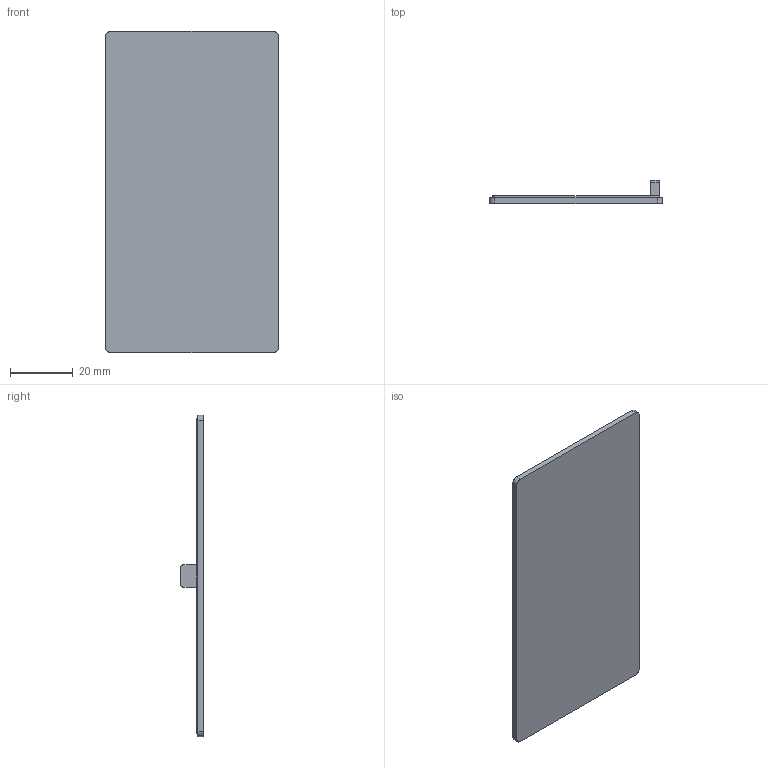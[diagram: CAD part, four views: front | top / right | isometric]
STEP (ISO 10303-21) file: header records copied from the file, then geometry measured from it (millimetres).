
FILE_DESCRIPTION (( 'STEP AP214' ), '1' );
FILE_NAME ('C-0204-N.STEP', '2010-07-16T16:51:25', ( 'steve began' ), ( 'polycase' ), 'SwSTEP 2.0', 'SolidWorks 2010', '' );
FILE_SCHEMA (( 'AUTOMOTIVE_DESIGN' ));
Length unit declared in the file: inch
Products named in the file (1): C-0204-N
Bounding box: 55.12 x 7.37 x 102.49 mm (x, y, z)
Volume: 12852.1 mm3; surface area: 12102.1 mm2
Topology: 1 solids, 1 shells, 25 faces, 66 edges, 44 vertices
Faces by surface type: plane 15, cylinder 10
Entity records: 820 total; most frequent: DIRECTION 138, CARTESIAN_POINT 136, ORIENTED_EDGE 132, EDGE_CURVE 66, VECTOR 46, AXIS2_PLACEMENT_3D 46, LINE 46, VERTEX_POINT 44
